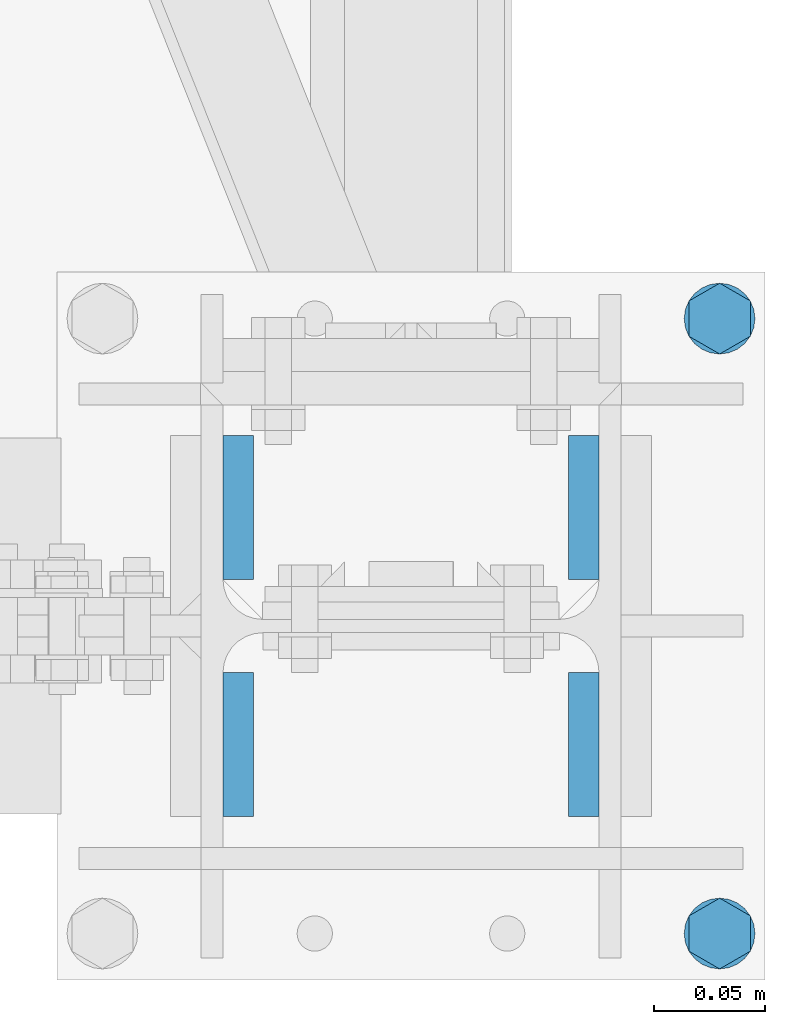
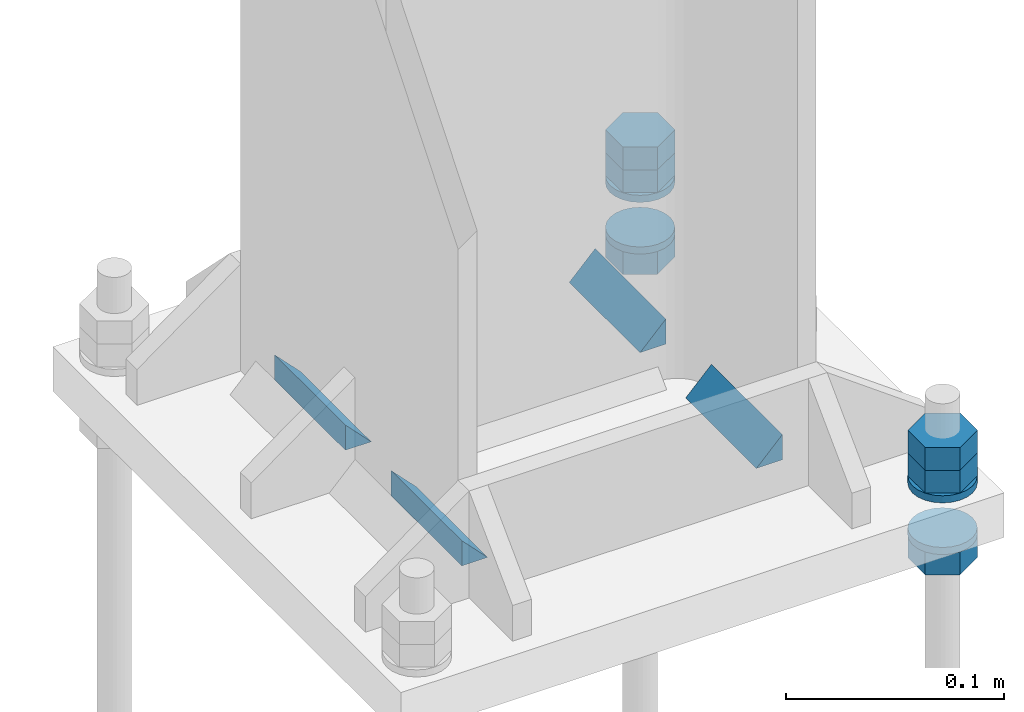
# One storey, part 99 of 251: 10 mechanical fasteners, 8 fasteners.
"""IFC4 building model written with IfcOpenShell, lengths in metres."""

from ifc_helpers import new_model, si_unit, frame, origin_with_axes, place, context, project, spatial, polyline, outline, extrude, type_object, element, save


model = new_model("IFC4")

# Units and contexts
model_context = context("Model", 3, precision=1e-05, world=origin_with_axes())
ifc_project = project(units=[si_unit("LENGTHUNIT", "METRE"), si_unit("AREAUNIT", "SQUARE_METRE"), si_unit("VOLUMEUNIT", "CUBIC_METRE"), si_unit("MASSUNIT", "GRAM", prefix="KILO"), si_unit("TIMEUNIT", "SECOND"), si_unit("PLANEANGLEUNIT", "RADIAN"), si_unit("SOLIDANGLEUNIT", "STERADIAN"), si_unit("THERMODYNAMICTEMPERATUREUNIT", "DEGREE_CELSIUS")], contexts=[model_context])

# Site, building, storey
placement_1 = place(None, origin_with_axes())
site = spatial("IfcSite", under=ifc_project, at=placement_1, Name="Italia", CompositionType="ELEMENT")
building = spatial("IfcBuilding", under=site, at=placement_1, Name="Deposito", CompositionType="ELEMENT")
storey = spatial("IfcBuildingStorey", under=building, at=placement_1, Name="Storey 0", CompositionType="ELEMENT", Elevation=0.0)

# Fasteners
fastener_type_1 = type_object("IfcFastenerType", Name="Collegamenti 0014_-001 0016_-054 0018_-056 0032_-002 0033_-058 0047_-003 0048_-060 0062_-004 0063_-005 0079_-008", PredefinedType="WELD")
placement_2 = place(placement_1, origin_with_axes())
fastener_1_placement = place(placement_2, origin_with_axes())
element("IfcFastener", 1, at=fastener_1_placement, inside=storey, type_object=fastener_type_1, Name="Collegamenti 0014_-001 0016_-054 0018_-056 0032_-002 0033_-058 0047_-003 0048_-060 0062_-004 0063_-005 0079_-008", context=model_context, shape_type="SweptSolid", body=[
    extrude(outline(polyline([(0.0, 0.0), (0.0137482, 0.0141734), (0.0137482, 0.0), (0.0, 0.0)])), frame((19.9287, 0.02095, 0.07495), z_axis=(0.0, 1.0, 0.0), x_axis=(-1.0, 0.0, 0.0)), (0.0, 0.0, 1.0), 0.0651),
])
fastener_type_2 = type_object("IfcFastenerType", Name="Collegamenti 0014_-001 0016_-054 0018_-056 0032_-002 0033_-058 0047_-003 0048_-060 0062_-004 0063_-005 0079_-008", PredefinedType="WELD")
fastener_2_placement = place(placement_2, origin_with_axes())
element("IfcFastener", 2, at=fastener_2_placement, inside=storey, type_object=fastener_type_2, Name="Collegamenti 0014_-001 0016_-054 0018_-056 0032_-002 0033_-058 0047_-003 0048_-060 0062_-004 0063_-005 0079_-008", context=model_context, shape_type="SweptSolid", body=[
    extrude(outline(polyline([(0.0, 0.0), (0.0137482, 0.0141734), (0.0137482, 0.0), (0.0, 0.0)])), frame((20.0713, 0.08605, 0.07495), z_axis=(0.0, -1.0, 0.0), x_axis=(1.0, 0.0, 0.0)), (0.0, 0.0, 1.0), 0.0651),
])
fastener_type_3 = type_object("IfcFastenerType", Name="Collegamenti 0014_-001 0016_-054 0018_-056 0032_-002 0033_-058 0047_-003 0048_-060 0062_-004 0063_-005 0079_-008", PredefinedType="WELD")
fastener_3_placement = place(placement_2, origin_with_axes())
element("IfcFastener", 3, at=fastener_3_placement, inside=storey, type_object=fastener_type_3, Name="Collegamenti 0014_-001 0016_-054 0018_-056 0032_-002 0033_-058 0047_-003 0048_-060 0062_-004 0063_-005 0079_-008", context=model_context, shape_type="SweptSolid", body=[
    extrude(outline(polyline([(0.0, 0.0), (0.0137482, 0.0141734), (0.0137482, 0.0), (0.0, 0.0)])), frame((20.0713, -0.02095, 0.07495), z_axis=(0.0, -1.0, 0.0), x_axis=(1.0, 0.0, 0.0)), (0.0, 0.0, 1.0), 0.0651),
])
fastener_type_4 = type_object("IfcFastenerType", Name="Collegamenti 0014_-001 0016_-054 0018_-056 0032_-002 0033_-058 0047_-003 0048_-060 0062_-004 0063_-005 0079_-008", PredefinedType="WELD")
fastener_4_placement = place(placement_2, origin_with_axes())
element("IfcFastener", 4, at=fastener_4_placement, inside=storey, type_object=fastener_type_4, Name="Collegamenti 0014_-001 0016_-054 0018_-056 0032_-002 0033_-058 0047_-003 0048_-060 0062_-004 0063_-005 0079_-008", context=model_context, shape_type="SweptSolid", body=[
    extrude(outline(polyline([(0.0, 0.0), (0.0137482, 0.0141734), (0.0137482, 0.0), (0.0, 0.0)])), frame((19.9287, -0.08605, 0.07495), z_axis=(0.0, 1.0, 0.0), x_axis=(-1.0, 0.0, 0.0)), (0.0, 0.0, 1.0), 0.0651),
])
fastener_type_5 = type_object("IfcFastenerType", Name="Collegamenti 0014_-001 0016_-054 0018_-056 0032_-002 0033_-058 0047_-003 0048_-060 0062_-004 0063_-005 0079_-008", PredefinedType="WELD")
fastener_5_placement = place(placement_2, origin_with_axes())
element("IfcFastener", 5, at=fastener_5_placement, inside=storey, type_object=fastener_type_5, Name="Collegamenti 0014_-001 0016_-054 0018_-056 0032_-002 0033_-058 0047_-003 0048_-060 0062_-004 0063_-005 0079_-008", context=model_context, shape_type="SweptSolid", body=[
    extrude(outline(polyline([(0.0, 0.0), (0.0137482, 0.0141734), (0.0137482, 0.0), (0.0, 0.0)])), frame((19.9287, 0.02095, 0.07495), z_axis=(0.0, 1.0, 0.0), x_axis=(-1.0, 0.0, 0.0)), (0.0, 0.0, 1.0), 0.0651),
])
fastener_type_6 = type_object("IfcFastenerType", Name="Collegamenti 0014_-001 0016_-054 0018_-056 0032_-002 0033_-058 0047_-003 0048_-060 0062_-004 0063_-005 0079_-008", PredefinedType="WELD")
fastener_6_placement = place(placement_2, origin_with_axes())
element("IfcFastener", 6, at=fastener_6_placement, inside=storey, type_object=fastener_type_6, Name="Collegamenti 0014_-001 0016_-054 0018_-056 0032_-002 0033_-058 0047_-003 0048_-060 0062_-004 0063_-005 0079_-008", context=model_context, shape_type="SweptSolid", body=[
    extrude(outline(polyline([(0.0, 0.0), (0.0137482, 0.0141734), (0.0137482, 0.0), (0.0, 0.0)])), frame((20.0713, 0.08605, 0.07495), z_axis=(0.0, -1.0, 0.0), x_axis=(1.0, 0.0, 0.0)), (0.0, 0.0, 1.0), 0.0651),
])
fastener_type_7 = type_object("IfcFastenerType", Name="Collegamenti 0014_-001 0016_-054 0018_-056 0032_-002 0033_-058 0047_-003 0048_-060 0062_-004 0063_-005 0079_-008", PredefinedType="WELD")
fastener_7_placement = place(placement_2, origin_with_axes())
element("IfcFastener", 7, at=fastener_7_placement, inside=storey, type_object=fastener_type_7, Name="Collegamenti 0014_-001 0016_-054 0018_-056 0032_-002 0033_-058 0047_-003 0048_-060 0062_-004 0063_-005 0079_-008", context=model_context, shape_type="SweptSolid", body=[
    extrude(outline(polyline([(0.0, 0.0), (0.0137482, 0.0141734), (0.0137482, 0.0), (0.0, 0.0)])), frame((20.0713, -0.02095, 0.07495), z_axis=(0.0, -1.0, 0.0), x_axis=(1.0, 0.0, 0.0)), (0.0, 0.0, 1.0), 0.0651),
])
fastener_type_8 = type_object("IfcFastenerType", Name="Collegamenti 0014_-001 0016_-054 0018_-056 0032_-002 0033_-058 0047_-003 0048_-060 0062_-004 0063_-005 0079_-008", PredefinedType="WELD")
fastener_8_placement = place(placement_2, origin_with_axes())
element("IfcFastener", 8, at=fastener_8_placement, inside=storey, type_object=fastener_type_8, Name="Collegamenti 0014_-001 0016_-054 0018_-056 0032_-002 0033_-058 0047_-003 0048_-060 0062_-004 0063_-005 0079_-008", context=model_context, shape_type="SweptSolid", body=[
    extrude(outline(polyline([(0.0, 0.0), (0.0137482, 0.0141734), (0.0137482, 0.0), (0.0, 0.0)])), frame((19.9287, -0.08605, 0.07495), z_axis=(0.0, 1.0, 0.0), x_axis=(-1.0, 0.0, 0.0)), (0.0, 0.0, 1.0), 0.0651),
])

# Mechanical fasteners
mechanical_fastener_type_1 = type_object("IfcMechanicalFastenerType", Name="Collegamenti 0014_-001 0016_-054 0018_-056 0032_-002 0033_-058 0047_-003 0048_-060 0062_-004 0063_-005 0079_-008", PredefinedType="BOLT")
mechanical_fastener_1_placement = place(placement_2, origin_with_axes())
element("IfcMechanicalFastener", 9, at=mechanical_fastener_1_placement, inside=storey, type_object=mechanical_fastener_type_1, Name="Collegamenti 0014_-001 0016_-054 0018_-056 0032_-002 0033_-058 0047_-003 0048_-060 0062_-004 0063_-005 0079_-008", NominalDiameter=0.016, context=model_context, shape_type="SweptSolid", body=[
    extrude(outline(polyline([(0.0, 0.0), (-0.016, 0.0), (-0.024, 0.0138569), (-0.016, 0.0277138), (0.0, 0.0277138), (0.008, 0.0138569), (0.0, 0.0)])), frame((20.1534, -0.131, 0.079), z_axis=(0.0, 0.0, 1.0), x_axis=(0.0, 1.0, 0.0)), (0.0, 0.0, 1.0), 0.0128),
])
mechanical_fastener_type_2 = type_object("IfcMechanicalFastenerType", Name="Collegamenti 0014_-001 0016_-054 0018_-056 0032_-002 0033_-058 0047_-003 0048_-060 0062_-004 0063_-005 0079_-008", PredefinedType="BOLT")
mechanical_fastener_2_placement = place(placement_2, origin_with_axes())
element("IfcMechanicalFastener", 10, at=mechanical_fastener_2_placement, inside=storey, type_object=mechanical_fastener_type_2, Name="Collegamenti 0014_-001 0016_-054 0018_-056 0032_-002 0033_-058 0047_-003 0048_-060 0062_-004 0063_-005 0079_-008", NominalDiameter=0.016, context=model_context, shape_type="SweptSolid", body=[
    extrude(outline(polyline([(0.0, 0.0), (-0.016, 0.0), (-0.024, 0.0138569), (-0.016, 0.0277138), (0.0, 0.0277138), (0.008, 0.0138569), (0.0, 0.0)])), frame((20.1534, -0.131, 0.0918), z_axis=(0.0, 0.0, 1.0), x_axis=(0.0, 1.0, 0.0)), (0.0, 0.0, 1.0), 0.0128),
])
mechanical_fastener_type_3 = type_object("IfcMechanicalFastenerType", Name="Collegamenti 0014_-001 0016_-054 0018_-056 0032_-002 0033_-058 0047_-003 0048_-060 0062_-004 0063_-005 0079_-008", PredefinedType="BOLT")
mechanical_fastener_3_placement = place(placement_2, origin_with_axes())
element("IfcMechanicalFastener", 11, at=mechanical_fastener_3_placement, inside=storey, type_object=mechanical_fastener_type_3, Name="Collegamenti 0014_-001 0016_-054 0018_-056 0032_-002 0033_-058 0047_-003 0048_-060 0062_-004 0063_-005 0079_-008", NominalDiameter=0.016, context=model_context, shape_type="SweptSolid", body=[
    extrude(outline(polyline([(0.0, 0.0), (-0.016, 0.0), (-0.024, 0.0138569), (-0.016, 0.0277138), (0.0, 0.0277138), (0.008, 0.0138569), (0.0, 0.0)])), frame((20.1534, -0.131, 0.0332), z_axis=(0.0, 0.0, 1.0), x_axis=(0.0, 1.0, 0.0)), (0.0, 0.0, 1.0), 0.0128),
])
mechanical_fastener_type_4 = type_object("IfcMechanicalFastenerType", Name="Collegamenti 0014_-001 0016_-054 0018_-056 0032_-002 0033_-058 0047_-003 0048_-060 0062_-004 0063_-005 0079_-008", PredefinedType="BOLT")
mechanical_fastener_4_placement = place(placement_2, origin_with_axes())
element("IfcMechanicalFastener", 12, at=mechanical_fastener_4_placement, inside=storey, type_object=mechanical_fastener_type_4, Name="Collegamenti 0014_-001 0016_-054 0018_-056 0032_-002 0033_-058 0047_-003 0048_-060 0062_-004 0063_-005 0079_-008", NominalDiameter=0.032, context=model_context, shape_type="SweptSolid", body=[
    extrude(outline(polyline([(0.0, 0.0), (-0.000545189, -0.00414085), (-0.00214359, -0.00799942), (-0.0046863, -0.0113144), (-0.008, -0.0138569), (-0.0118589, -0.0154552), (-0.016, -0.0160007), (-0.0201411, -0.0154552), (-0.024, -0.0138569), (-0.0273137, -0.0113144), (-0.0298564, -0.00799942), (-0.0314548, -0.00414085), (-0.032, 0.0), (-0.0314548, 0.00414085), (-0.0298564, 0.00799942), (-0.0273137, 0.0113144), (-0.024, 0.0138569), (-0.0201411, 0.0154552), (-0.016, 0.0160007), (-0.0118589, 0.0154552), (-0.008, 0.0138569), (-0.0046863, 0.0113144), (-0.00214359, 0.00799942), (-0.000545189, 0.00414085), (0.0, 0.0)])), frame((20.1395, -0.123, 0.075), z_axis=(0.0, 0.0, 1.0), x_axis=(0.0, 1.0, 0.0)), (0.0, 0.0, 1.0), 0.00399999),
])
mechanical_fastener_type_5 = type_object("IfcMechanicalFastenerType", Name="Collegamenti 0014_-001 0016_-054 0018_-056 0032_-002 0033_-058 0047_-003 0048_-060 0062_-004 0063_-005 0079_-008", PredefinedType="BOLT")
mechanical_fastener_5_placement = place(placement_2, origin_with_axes())
element("IfcMechanicalFastener", 13, at=mechanical_fastener_5_placement, inside=storey, type_object=mechanical_fastener_type_5, Name="Collegamenti 0014_-001 0016_-054 0018_-056 0032_-002 0033_-058 0047_-003 0048_-060 0062_-004 0063_-005 0079_-008", NominalDiameter=0.032, context=model_context, shape_type="SweptSolid", body=[
    extrude(outline(polyline([(0.0, 0.0), (-0.000545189, -0.00414085), (-0.00214359, -0.00799942), (-0.0046863, -0.0113144), (-0.008, -0.0138569), (-0.0118589, -0.0154552), (-0.016, -0.0160007), (-0.0201411, -0.0154552), (-0.024, -0.0138569), (-0.0273137, -0.0113144), (-0.0298564, -0.00799942), (-0.0314548, -0.00414085), (-0.032, 0.0), (-0.0314548, 0.00414085), (-0.0298564, 0.00799942), (-0.0273137, 0.0113144), (-0.024, 0.0138569), (-0.0201411, 0.0154552), (-0.016, 0.0160007), (-0.0118589, 0.0154552), (-0.008, 0.0138569), (-0.0046863, 0.0113144), (-0.00214359, 0.00799942), (-0.000545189, 0.00414085), (0.0, 0.0)])), frame((20.1395, -0.123, 0.046), z_axis=(0.0, 0.0, 1.0), x_axis=(0.0, 1.0, 0.0)), (0.0, 0.0, 1.0), 0.004),
])
mechanical_fastener_type_6 = type_object("IfcMechanicalFastenerType", Name="Collegamenti 0014_-001 0016_-054 0018_-056 0032_-002 0033_-058 0047_-003 0048_-060 0062_-004 0063_-005 0079_-008", PredefinedType="BOLT")
mechanical_fastener_6_placement = place(placement_2, origin_with_axes())
element("IfcMechanicalFastener", 14, at=mechanical_fastener_6_placement, inside=storey, type_object=mechanical_fastener_type_6, Name="Collegamenti 0014_-001 0016_-054 0018_-056 0032_-002 0033_-058 0047_-003 0048_-060 0062_-004 0063_-005 0079_-008", NominalDiameter=0.016, context=model_context, shape_type="SweptSolid", body=[
    extrude(outline(polyline([(0.0, 0.0), (-0.016, 0.0), (-0.024, 0.0138569), (-0.016, 0.0277138), (0.0, 0.0277138), (0.008, 0.0138569), (0.0, 0.0)])), frame((20.1534, 0.147, 0.079), z_axis=(0.0, 0.0, 1.0), x_axis=(0.0, 1.0, 0.0)), (0.0, 0.0, 1.0), 0.0128),
])
mechanical_fastener_type_7 = type_object("IfcMechanicalFastenerType", Name="Collegamenti 0014_-001 0016_-054 0018_-056 0032_-002 0033_-058 0047_-003 0048_-060 0062_-004 0063_-005 0079_-008", PredefinedType="BOLT")
mechanical_fastener_7_placement = place(placement_2, origin_with_axes())
element("IfcMechanicalFastener", 15, at=mechanical_fastener_7_placement, inside=storey, type_object=mechanical_fastener_type_7, Name="Collegamenti 0014_-001 0016_-054 0018_-056 0032_-002 0033_-058 0047_-003 0048_-060 0062_-004 0063_-005 0079_-008", NominalDiameter=0.016, context=model_context, shape_type="SweptSolid", body=[
    extrude(outline(polyline([(0.0, 0.0), (-0.016, 0.0), (-0.024, 0.0138569), (-0.016, 0.0277138), (0.0, 0.0277138), (0.008, 0.0138569), (0.0, 0.0)])), frame((20.1534, 0.147, 0.0918), z_axis=(0.0, 0.0, 1.0), x_axis=(0.0, 1.0, 0.0)), (0.0, 0.0, 1.0), 0.0128),
])
mechanical_fastener_type_8 = type_object("IfcMechanicalFastenerType", Name="Collegamenti 0014_-001 0016_-054 0018_-056 0032_-002 0033_-058 0047_-003 0048_-060 0062_-004 0063_-005 0079_-008", PredefinedType="BOLT")
mechanical_fastener_8_placement = place(placement_2, origin_with_axes())
element("IfcMechanicalFastener", 16, at=mechanical_fastener_8_placement, inside=storey, type_object=mechanical_fastener_type_8, Name="Collegamenti 0014_-001 0016_-054 0018_-056 0032_-002 0033_-058 0047_-003 0048_-060 0062_-004 0063_-005 0079_-008", NominalDiameter=0.016, context=model_context, shape_type="SweptSolid", body=[
    extrude(outline(polyline([(0.0, 0.0), (-0.016, 0.0), (-0.024, 0.0138569), (-0.016, 0.0277138), (0.0, 0.0277138), (0.008, 0.0138569), (0.0, 0.0)])), frame((20.1534, 0.147, 0.0332), z_axis=(0.0, 0.0, 1.0), x_axis=(0.0, 1.0, 0.0)), (0.0, 0.0, 1.0), 0.0128),
])
mechanical_fastener_type_9 = type_object("IfcMechanicalFastenerType", Name="Collegamenti 0014_-001 0016_-054 0018_-056 0032_-002 0033_-058 0047_-003 0048_-060 0062_-004 0063_-005 0079_-008", PredefinedType="BOLT")
mechanical_fastener_9_placement = place(placement_2, origin_with_axes())
element("IfcMechanicalFastener", 17, at=mechanical_fastener_9_placement, inside=storey, type_object=mechanical_fastener_type_9, Name="Collegamenti 0014_-001 0016_-054 0018_-056 0032_-002 0033_-058 0047_-003 0048_-060 0062_-004 0063_-005 0079_-008", NominalDiameter=0.032, context=model_context, shape_type="SweptSolid", body=[
    extrude(outline(polyline([(0.0, 0.0), (-0.000545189, -0.00414085), (-0.00214359, -0.00799942), (-0.0046863, -0.0113144), (-0.008, -0.0138569), (-0.0118589, -0.0154552), (-0.016, -0.0160007), (-0.0201411, -0.0154552), (-0.024, -0.0138569), (-0.0273137, -0.0113144), (-0.0298564, -0.00799942), (-0.0314548, -0.00414085), (-0.032, 0.0), (-0.0314548, 0.00414085), (-0.0298564, 0.00799942), (-0.0273137, 0.0113144), (-0.024, 0.0138569), (-0.0201411, 0.0154552), (-0.016, 0.0160007), (-0.0118589, 0.0154552), (-0.008, 0.0138569), (-0.0046863, 0.0113144), (-0.00214359, 0.00799942), (-0.000545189, 0.00414085), (0.0, 0.0)])), frame((20.1395, 0.155, 0.075), z_axis=(0.0, 0.0, 1.0), x_axis=(0.0, 1.0, 0.0)), (0.0, 0.0, 1.0), 0.00399999),
])
mechanical_fastener_type_10 = type_object("IfcMechanicalFastenerType", Name="Collegamenti 0014_-001 0016_-054 0018_-056 0032_-002 0033_-058 0047_-003 0048_-060 0062_-004 0063_-005 0079_-008", PredefinedType="BOLT")
mechanical_fastener_10_placement = place(placement_2, origin_with_axes())
element("IfcMechanicalFastener", 18, at=mechanical_fastener_10_placement, inside=storey, type_object=mechanical_fastener_type_10, Name="Collegamenti 0014_-001 0016_-054 0018_-056 0032_-002 0033_-058 0047_-003 0048_-060 0062_-004 0063_-005 0079_-008", NominalDiameter=0.032, context=model_context, shape_type="SweptSolid", body=[
    extrude(outline(polyline([(0.0, 0.0), (-0.000545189, -0.00414085), (-0.00214359, -0.00799942), (-0.0046863, -0.0113144), (-0.008, -0.0138569), (-0.0118589, -0.0154552), (-0.016, -0.0160007), (-0.0201411, -0.0154552), (-0.024, -0.0138569), (-0.0273137, -0.0113144), (-0.0298564, -0.00799942), (-0.0314548, -0.00414085), (-0.032, 0.0), (-0.0314548, 0.00414085), (-0.0298564, 0.00799942), (-0.0273137, 0.0113144), (-0.024, 0.0138569), (-0.0201411, 0.0154552), (-0.016, 0.0160007), (-0.0118589, 0.0154552), (-0.008, 0.0138569), (-0.0046863, 0.0113144), (-0.00214359, 0.00799942), (-0.000545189, 0.00414085), (0.0, 0.0)])), frame((20.1395, 0.155, 0.046), z_axis=(0.0, 0.0, 1.0), x_axis=(0.0, 1.0, 0.0)), (0.0, 0.0, 1.0), 0.004),
])

save(model, "model.ifc")
